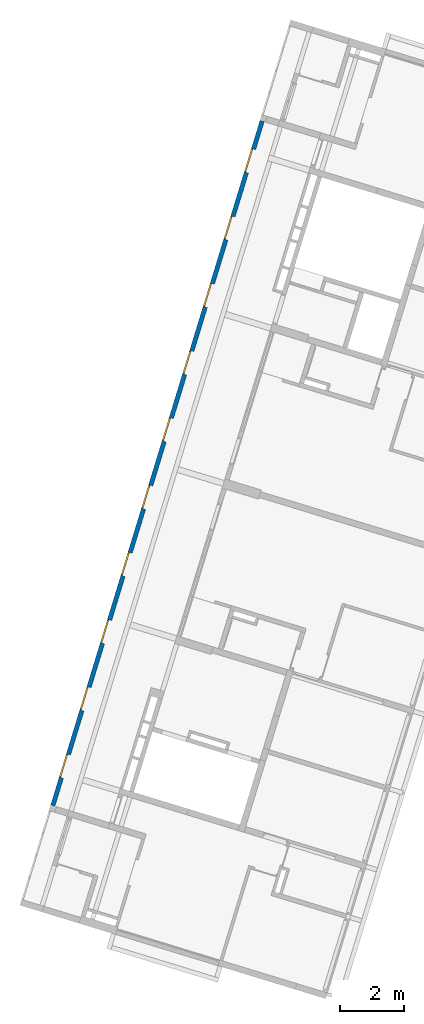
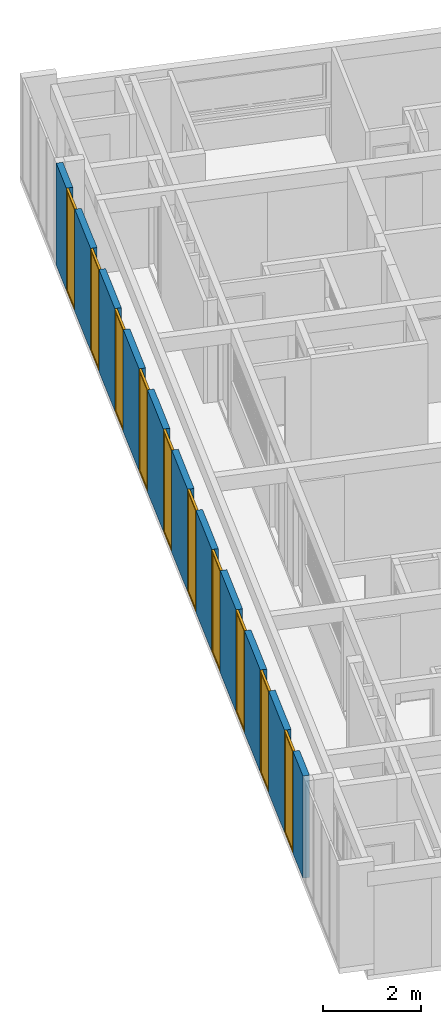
# One storey, part 9 of 18: 10 windows, 1 wall, 10 openings.
"""IFC2X3 building model written with IfcOpenShell, lengths in millimetres."""

from ifc_helpers import new_model, entity, si_unit, converted_unit, derived_unit, money_unit, direction, frame, origin_with_axes, place, context, subcontext, project, spatial, open_shell, faceted_brep, surface_model, source, transform, mapped, material, type_object, element, fill, save


model = new_model("IFC2X3")

# Units and contexts
model_context = context("Model", 3, precision=0.01, world=origin_with_axes(), true_north=direction((0.0, 1.0)))
body_context = subcontext(model_context, "Body", "Model", "MODEL_VIEW")
ifc_project = project(units=[si_unit("LENGTHUNIT", "METRE", prefix="MILLI"), si_unit("AREAUNIT", "SQUARE_METRE"), si_unit("VOLUMEUNIT", "CUBIC_METRE"), converted_unit("PLANEANGLEUNIT", "DEGREE", entity("IfcPlaneAngleMeasure", 0.0174532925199), si_unit("PLANEANGLEUNIT", "RADIAN"), dimensions=[0, 0, 0, 0, 0, 0, 0]), money_unit("USD"), converted_unit("TIMEUNIT", "Year", entity("IfcTimeMeasure", 31556926.0), si_unit("TIMEUNIT", "SECOND"), dimensions=[0, 0, 1, 0, 0, 0, 0]), si_unit("MASSUNIT", "GRAM", prefix="KILO"), si_unit("THERMODYNAMICTEMPERATUREUNIT", "DEGREE_CELSIUS"), si_unit("LUMINOUSINTENSITYUNIT", "LUMEN"), si_unit("ENERGYUNIT", "JOULE", prefix="MEGA"), derived_unit("THERMALCONDUCTANCEUNIT", [(si_unit("POWERUNIT", "WATT"), 1), (si_unit("LENGTHUNIT", "METRE"), -1), (si_unit("THERMODYNAMICTEMPERATUREUNIT", "KELVIN"), -1)]), derived_unit("SPECIFICHEATCAPACITYUNIT", [(si_unit("ENERGYUNIT", "JOULE"), 1), (si_unit("MASSUNIT", "GRAM", prefix="KILO"), -1), (si_unit("THERMODYNAMICTEMPERATUREUNIT", "KELVIN"), -1)]), derived_unit("MASSDENSITYUNIT", [(si_unit("MASSUNIT", "GRAM", prefix="KILO"), 1), (si_unit("VOLUMEUNIT", "CUBIC_METRE"), -1)])], contexts=[model_context])

# Site, building, storey
site_placement = place(None, frame((0.0, 0.0, 0.0), z_axis=(0.0, 0.0, 1.0), x_axis=(0.956304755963, -0.292371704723, 0.0)))
site = spatial("IfcSite", under=ifc_project, at=site_placement, Name="Site", CompositionType="ELEMENT")
building_placement = place(site_placement, origin_with_axes())
building = spatial("IfcBuilding", under=site, at=building_placement, Name="Building", CompositionType="ELEMENT")
storey_placement = place(building_placement, origin_with_axes())
storey = spatial("IfcBuildingStorey", under=building, at=storey_placement, Name="Pavimento tipo", CompositionType="ELEMENT", Elevation=0.0)

# Wall, openings, windows
ifc_material = material(Name="Tijolo - Estrutural")
wall_type = type_object("IfcWallType", Name="Tijolo - Estrutural 140", PredefinedType="NOTDEFINED")
wall_placement = place(storey_placement, frame((-528.28928681, 3300.01112316, 250.0), z_axis=(0.0, 0.0, 1.0), x_axis=(0.0, 1.0, 0.0)))
wall = element("IfcWall", 1, at=wall_placement, inside=storey, type_object=wall_type, material=ifc_material, Name="Parede 57", context=body_context, shape_type="Brep", body=[
    faceted_brep([(5330.01345491, -70.0, 2560.0), (5330.01345491, 70.0, 2560.0), (3890.01726363, 70.0, 2560.0), (3890.01726363, -70.0, 2560.0), (5330.01345491, 70.0, 0.0), (5330.01345491, -70.0, 0.0), (3890.01726363, 70.0, 0.0), (3890.01726363, -70.0, 0.0)], [[[0, 1, 2, 3]], [[4, 1, 0, 5]], [[1, 4, 6, 2]], [[2, 6, 7, 3]], [[5, 0, 3, 7]], [[4, 5, 7, 6]]]),
    faceted_brep([(6100.01345491, 70.0, 2560.0), (6100.01345491, -70.0, 2560.0), (7540.00964619, -70.0, 2560.0), (7540.00964619, 70.0, 2560.0), (6100.01345491, -70.0, 0.0), (6100.01345491, 70.0, 0.0), (7540.00964619, -70.0, 0.0), (7540.00964619, 70.0, 0.0)], [[[0, 1, 2, 3]], [[4, 1, 0, 5]], [[1, 4, 6, 2]], [[2, 6, 7, 3]], [[5, 0, 3, 7]], [[4, 5, 7, 6]]]),
    faceted_brep([(9750.00583746, -70.0, 2560.0), (9750.00583746, 70.0, 2560.0), (8310.00964619, 70.0, 2560.0), (8310.00964619, -70.0, 2560.0), (9750.00583746, 70.0, 0.0), (9750.00583746, -70.0, 0.0), (8310.00964619, 70.0, 0.0), (8310.00964619, -70.0, 0.0)], [[[0, 1, 2, 3]], [[4, 1, 0, 5]], [[1, 4, 6, 2]], [[2, 6, 7, 3]], [[5, 0, 3, 7]], [[4, 5, 7, 6]]]),
    faceted_brep([(10520.0058375, 70.0, 2560.0), (10520.0058375, -70.0, 2560.0), (11960.0020287, -70.0, 2560.0), (11960.0020287, 70.0, 2560.0), (10520.0058375, -70.0, 0.0), (10520.0058375, 70.0, 0.0), (11960.0020287, -70.0, 0.0), (11960.0020287, 70.0, 0.0)], [[[0, 1, 2, 3]], [[4, 1, 0, 5]], [[1, 4, 6, 2]], [[2, 6, 7, 3]], [[5, 0, 3, 7]], [[4, 5, 7, 6]]]),
    faceted_brep([(14169.99822, -70.0, 2560.0), (14169.99822, 70.0, 2560.0), (12730.0020287, 70.0, 2560.0), (12730.0020287, -70.0, 2560.0), (14169.99822, 70.0, 0.0), (14169.99822, -70.0, 0.0), (12730.0020287, 70.0, 0.0), (12730.0020287, -70.0, 0.0)], [[[0, 1, 2, 3]], [[4, 1, 0, 5]], [[1, 4, 6, 2]], [[2, 6, 7, 3]], [[5, 0, 3, 7]], [[4, 5, 7, 6]]]),
    faceted_brep([(14939.99822, 70.0, 2560.0), (14939.99822, -70.0, 2560.0), (16379.9944113, -70.0, 2560.0), (16379.9944113, 70.0, 2560.0), (14939.99822, -70.0, 0.0), (14939.99822, 70.0, 0.0), (16379.9944113, -70.0, 0.0), (16379.9944113, 70.0, 0.0)], [[[0, 1, 2, 3]], [[4, 1, 0, 5]], [[1, 4, 6, 2]], [[2, 6, 7, 3]], [[5, 0, 3, 7]], [[4, 5, 7, 6]]]),
    faceted_brep([(18589.9906026, -70.0, 2560.0), (18589.9906026, 70.0, 2560.0), (17149.9944113, 70.0, 2560.0), (17149.9944113, -70.0, 2560.0), (18589.9906026, 70.0, 0.0), (18589.9906026, -70.0, 0.0), (17149.9944113, 70.0, 0.0), (17149.9944113, -70.0, 0.0)], [[[0, 1, 2, 3]], [[4, 1, 0, 5]], [[1, 4, 6, 2]], [[2, 6, 7, 3]], [[5, 0, 3, 7]], [[4, 5, 7, 6]]]),
    faceted_brep([(19359.9906026, 70.0, 2560.0), (19359.9906026, -70.0, 2560.0), (20799.9867938, -70.0, 2560.0), (20799.9867938, 70.0, 2560.0), (19359.9906026, -70.0, 0.0), (19359.9906026, 70.0, 0.0), (20799.9867938, -70.0, 0.0), (20799.9867938, 70.0, 0.0)], [[[0, 1, 2, 3]], [[4, 1, 0, 5]], [[1, 4, 6, 2]], [[2, 6, 7, 3]], [[5, 0, 3, 7]], [[4, 5, 7, 6]]]),
    faceted_brep([(22489.986794, -70.0, 2560.0), (22489.986794, 70.0, 2560.0), (21569.9867938, 70.0, 2560.0), (21569.9867938, -70.0, 2560.0), (22489.986794, 70.0, 0.0), (22489.986794, -70.0, 0.0), (21569.9867938, 70.0, 0.0), (21569.9867938, -70.0, 0.0)], [[[0, 1, 2, 3]], [[4, 1, 0, 5]], [[1, 4, 6, 2]], [[2, 6, 7, 3]], [[5, 0, 3, 7]], [[4, 5, 7, 6]]]),
    faceted_brep([(910.021072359, -70.0, 0.0), (910.021072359, -70.0, 2560.0), (0.0, -70.0, 2560.0), (0.0, -70.0, 0.0), (910.021072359, 70.0, 2560.0), (910.021072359, 70.0, 0.0), (0.0, 70.0, 2560.0), (0.0, 70.0, 0.0)], [[[0, 1, 2, 3]], [[4, 1, 0, 5]], [[1, 4, 6, 2]], [[6, 7, 3, 2]], [[5, 0, 3, 7]], [[4, 5, 7, 6]]]),
    faceted_brep([(1680.02107236, 70.0, 2560.0), (1680.02107236, -70.0, 2560.0), (3120.01726363, -70.0, 2560.0), (3120.01726363, 70.0, 2560.0), (1680.02107236, -70.0, 0.0), (1680.02107236, 70.0, 0.0), (3120.01726363, -70.0, 0.0), (3120.01726363, 70.0, 0.0)], [[[0, 1, 2, 3]], [[4, 1, 0, 5]], [[1, 4, 6, 2]], [[2, 6, 7, 3]], [[5, 0, 3, 7]], [[4, 5, 7, 6]]]),
])
opening_1_placement = place(wall_placement, frame((21184.9867938, 0.0, 0.0), z_axis=(0.0, 0.0, 1.0), x_axis=(1.0, 0.0, 0.0)))
opening_1 = element("IfcOpeningElement", 2, at=opening_1_placement, cuts=wall, Name="J19", context=body_context, shape_type="Brep", body=[
    faceted_brep([(-385.0, -71.0, 2560.0), (-385.0, -71.0, 0.0), (385.0, -71.0, 0.0), (385.0, -71.0, 2560.0), (-385.0, 71.0, 2560.0), (-385.0, 71.0, 0.0), (385.0, 71.0, 0.0), (385.0, 71.0, 2560.0)], [[[0, 1, 2, 3]], [[4, 5, 1, 0]], [[5, 6, 2, 1]], [[6, 7, 3, 2]], [[7, 4, 0, 3]], [[6, 5, 4, 7]]]),
])
opening_2_placement = place(wall_placement, frame((18974.9906026, 0.0, 0.0), z_axis=(0.0, 0.0, 1.0), x_axis=(1.0, 0.0, 0.0)))
opening_2 = element("IfcOpeningElement", 3, at=opening_2_placement, cuts=wall, Name="J20", context=body_context, shape_type="Brep", body=[
    faceted_brep([(-385.0, -71.0, 2560.0), (-385.0, -71.0, 0.0), (385.0, -71.0, 0.0), (385.0, -71.0, 2560.0), (-385.0, 71.0, 2560.0), (-385.0, 71.0, 0.0), (385.0, 71.0, 0.0), (385.0, 71.0, 2560.0)], [[[0, 1, 2, 3]], [[4, 5, 1, 0]], [[5, 6, 2, 1]], [[6, 7, 3, 2]], [[7, 4, 0, 3]], [[6, 5, 4, 7]]]),
])
opening_3_placement = place(wall_placement, frame((16764.9944113, 0.0, 0.0), z_axis=(0.0, 0.0, 1.0), x_axis=(1.0, 0.0, 0.0)))
opening_3 = element("IfcOpeningElement", 4, at=opening_3_placement, cuts=wall, Name="J21", context=body_context, shape_type="Brep", body=[
    faceted_brep([(-385.0, -71.0, 2560.0), (-385.0, -71.0, 0.0), (385.0, -71.0, 0.0), (385.0, -71.0, 2560.0), (-385.0, 71.0, 2560.0), (-385.0, 71.0, 0.0), (385.0, 71.0, 0.0), (385.0, 71.0, 2560.0)], [[[0, 1, 2, 3]], [[4, 5, 1, 0]], [[5, 6, 2, 1]], [[6, 7, 3, 2]], [[7, 4, 0, 3]], [[6, 5, 4, 7]]]),
])
opening_4_placement = place(wall_placement, frame((14554.99822, 0.0, 0.0), z_axis=(0.0, 0.0, 1.0), x_axis=(1.0, 0.0, 0.0)))
opening_4 = element("IfcOpeningElement", 5, at=opening_4_placement, cuts=wall, Name="J22", context=body_context, shape_type="Brep", body=[
    faceted_brep([(-385.0, -71.0, 2560.0), (-385.0, -71.0, 0.0), (385.0, -71.0, 0.0), (385.0, -71.0, 2560.0), (-385.0, 71.0, 2560.0), (-385.0, 71.0, 0.0), (385.0, 71.0, 0.0), (385.0, 71.0, 2560.0)], [[[0, 1, 2, 3]], [[4, 5, 1, 0]], [[5, 6, 2, 1]], [[6, 7, 3, 2]], [[7, 4, 0, 3]], [[6, 5, 4, 7]]]),
])
opening_5_placement = place(wall_placement, frame((12345.0020287, 0.0, 0.0), z_axis=(0.0, 0.0, 1.0), x_axis=(1.0, 0.0, 0.0)))
opening_5 = element("IfcOpeningElement", 6, at=opening_5_placement, cuts=wall, Name="J23", context=body_context, shape_type="Brep", body=[
    faceted_brep([(-385.0, -71.0, 2560.0), (-385.0, -71.0, 0.0), (385.0, -71.0, 0.0), (385.0, -71.0, 2560.0), (-385.0, 71.0, 2560.0), (-385.0, 71.0, 0.0), (385.0, 71.0, 0.0), (385.0, 71.0, 2560.0)], [[[0, 1, 2, 3]], [[4, 5, 1, 0]], [[5, 6, 2, 1]], [[6, 7, 3, 2]], [[7, 4, 0, 3]], [[6, 5, 4, 7]]]),
])
opening_6_placement = place(wall_placement, frame((10135.0058375, 0.0, 0.0), z_axis=(0.0, 0.0, 1.0), x_axis=(1.0, 0.0, 0.0)))
opening_6 = element("IfcOpeningElement", 7, at=opening_6_placement, cuts=wall, Name="J24", context=body_context, shape_type="Brep", body=[
    faceted_brep([(-385.0, -71.0, 2560.0), (-385.0, -71.0, 0.0), (385.0, -71.0, 0.0), (385.0, -71.0, 2560.0), (-385.0, 71.0, 2560.0), (-385.0, 71.0, 0.0), (385.0, 71.0, 0.0), (385.0, 71.0, 2560.0)], [[[0, 1, 2, 3]], [[4, 5, 1, 0]], [[5, 6, 2, 1]], [[6, 7, 3, 2]], [[7, 4, 0, 3]], [[6, 5, 4, 7]]]),
])
opening_7_placement = place(wall_placement, frame((7925.00964619, 0.0, 0.0), z_axis=(0.0, 0.0, 1.0), x_axis=(1.0, 0.0, 0.0)))
opening_7 = element("IfcOpeningElement", 8, at=opening_7_placement, cuts=wall, Name="J25", context=body_context, shape_type="Brep", body=[
    faceted_brep([(-385.0, -71.0, 2560.0), (-385.0, -71.0, 0.0), (385.0, -71.0, 0.0), (385.0, -71.0, 2560.0), (-385.0, 71.0, 2560.0), (-385.0, 71.0, 0.0), (385.0, 71.0, 0.0), (385.0, 71.0, 2560.0)], [[[0, 1, 2, 3]], [[4, 5, 1, 0]], [[5, 6, 2, 1]], [[6, 7, 3, 2]], [[7, 4, 0, 3]], [[6, 5, 4, 7]]]),
])
opening_8_placement = place(wall_placement, frame((5715.01345491, 0.0, 0.0), z_axis=(0.0, 0.0, 1.0), x_axis=(1.0, 0.0, 0.0)))
opening_8 = element("IfcOpeningElement", 9, at=opening_8_placement, cuts=wall, Name="J26", context=body_context, shape_type="Brep", body=[
    faceted_brep([(-385.0, -71.0, 2560.0), (-385.0, -71.0, 0.0), (385.0, -71.0, 0.0), (385.0, -71.0, 2560.0), (-385.0, 71.0, 2560.0), (-385.0, 71.0, 0.0), (385.0, 71.0, 0.0), (385.0, 71.0, 2560.0)], [[[0, 1, 2, 3]], [[4, 5, 1, 0]], [[5, 6, 2, 1]], [[6, 7, 3, 2]], [[7, 4, 0, 3]], [[6, 5, 4, 7]]]),
])
opening_9_placement = place(wall_placement, frame((3505.01726363, 0.0, 0.0), z_axis=(0.0, 0.0, 1.0), x_axis=(1.0, 0.0, 0.0)))
opening_9 = element("IfcOpeningElement", 10, at=opening_9_placement, cuts=wall, Name="J27", context=body_context, shape_type="Brep", body=[
    faceted_brep([(-385.0, -71.0, 2560.0), (-385.0, -71.0, 0.0), (385.0, -71.0, 0.0), (385.0, -71.0, 2560.0), (-385.0, 71.0, 2560.0), (-385.0, 71.0, 0.0), (385.0, 71.0, 0.0), (385.0, 71.0, 2560.0)], [[[0, 1, 2, 3]], [[4, 5, 1, 0]], [[5, 6, 2, 1]], [[6, 7, 3, 2]], [[7, 4, 0, 3]], [[6, 5, 4, 7]]]),
])
opening_10_placement = place(wall_placement, frame((1295.02107236, 0.0, 0.0), z_axis=(0.0, 0.0, 1.0), x_axis=(1.0, 0.0, 0.0)))
opening_10 = element("IfcOpeningElement", 11, at=opening_10_placement, cuts=wall, Name="J28", context=body_context, shape_type="Brep", body=[
    faceted_brep([(-385.0, -71.0, 2560.0), (-385.0, -71.0, 0.0), (385.0, -71.0, 0.0), (385.0, -71.0, 2560.0), (-385.0, 71.0, 2560.0), (-385.0, 71.0, 0.0), (385.0, 71.0, 0.0), (385.0, 71.0, 2560.0)], [[[0, 1, 2, 3]], [[4, 5, 1, 0]], [[5, 6, 2, 1]], [[6, 7, 3, 2]], [[7, 4, 0, 3]], [[6, 5, 4, 7]]]),
])
window_style = type_object("IfcWindowStyle", Name="Janela 26", ConstructionType="NOTDEFINED", OperationType="SINGLE_PANEL", ParameterTakesPrecedence=False, Sizeable=False)
shared_shape = source(origin_with_axes(), body_context, "Body", "SurfaceModel", [
    faceted_brep([(-350.0, -50.0, 2525.0), (-350.0, 0.0, 2525.0), (-385.0, 0.0, 2525.0), (-385.0, -50.0, 2525.0), (-350.0, -50.0, 35.0), (-350.0, 0.0, 35.0), (-385.0, 0.0, 35.0), (-385.0, -50.0, 35.0)], [[[0, 1, 2, 3]], [[4, 5, 1, 0]], [[1, 5, 6, 2]], [[3, 2, 6, 7]], [[0, 3, 7, 4]], [[7, 6, 5, 4]]]),
    faceted_brep([(350.0, -50.0, 35.0), (350.0, 0.0, 35.0), (385.0, 0.0, 35.0), (385.0, -50.0, 35.0), (350.0, -50.0, 2525.0), (350.0, 0.0, 2525.0), (385.0, 0.0, 2525.0), (385.0, -50.0, 2525.0)], [[[0, 1, 2, 3]], [[4, 5, 1, 0]], [[1, 5, 6, 2]], [[3, 2, 6, 7]], [[0, 3, 7, 4]], [[7, 6, 5, 4]]]),
    faceted_brep([(-350.0, -50.0, 35.0), (-350.0, 0.0, 35.0), (-385.0, 0.0, 35.0), (-385.0, -50.0, 35.0), (350.0, -50.0, 35.0), (350.0, 0.0, 35.0), (385.0, 0.0, 35.0), (385.0, 0.0, 0.0), (-385.0, 0.0, 0.0), (-385.0, -50.0, 0.0), (385.0, -50.0, 0.0), (385.0, -50.0, 35.0)], [[[0, 1, 2, 3]], [[4, 5, 1, 0]], [[1, 5, 6, 7, 8, 2]], [[3, 2, 8, 9]], [[0, 3, 9, 10, 11, 4]], [[11, 6, 5, 4]], [[10, 7, 6, 11]], [[9, 8, 7, 10]]]),
    faceted_brep([(350.0, -50.0, 2525.0), (350.0, 0.0, 2525.0), (385.0, 0.0, 2525.0), (385.0, -50.0, 2525.0), (-350.0, -50.0, 2525.0), (-350.0, 0.0, 2525.0), (-385.0, 0.0, 2525.0), (-385.0, 0.0, 2560.0), (385.0, 0.0, 2560.0), (385.0, -50.0, 2560.0), (-385.0, -50.0, 2560.0), (-385.0, -50.0, 2525.0)], [[[0, 1, 2, 3]], [[4, 5, 1, 0]], [[1, 5, 6, 7, 8, 2]], [[3, 2, 8, 9]], [[0, 3, 9, 10, 11, 4]], [[11, 6, 5, 4]], [[10, 7, 6, 11]], [[9, 8, 7, 10]]]),
    surface_model("IfcShellBasedSurfaceModel", [(350.0, -35.0, 35.0), (350.0, -35.0, 2525.0), (-350.0, -35.0, 2525.0), (-350.0, -35.0, 35.0)], [open_shell([[[0, 1, 2, 3]]])]),
    surface_model("IfcShellBasedSurfaceModel", [(350.0, -15.0, 35.0), (-350.0, -15.0, 35.0), (-350.0, -15.0, 2525.0), (350.0, -15.0, 2525.0)], [open_shell([[[0, 1, 2, 3]]])]),
])
window_1_placement = place(opening_1_placement, frame((385.0, 0.0, 0.0), z_axis=(0.0, 0.0, 1.0), x_axis=(-1.0, 0.0, 0.0)))
window_1 = element("IfcWindow", 12, at=window_1_placement, inside=storey, type_object=window_style, Name="J19", OverallHeight=2560.0, OverallWidth=770.0, context=body_context, shape_type="MappedRepresentation", body=[
    mapped(shared_shape, transform((385.0, -20.0, 0.0))),
])
fill(opening_1, window_1)
window_2_placement = place(opening_2_placement, frame((385.0, 0.0, 0.0), z_axis=(0.0, 0.0, 1.0), x_axis=(-1.0, 0.0, 0.0)))
window_2 = element("IfcWindow", 13, at=window_2_placement, inside=storey, type_object=window_style, Name="J20", OverallHeight=2560.0, OverallWidth=770.0, context=body_context, shape_type="MappedRepresentation", body=[
    mapped(shared_shape, transform((385.0, -20.0, 0.0))),
])
fill(opening_2, window_2)
window_3_placement = place(opening_3_placement, frame((385.0, 0.0, 0.0), z_axis=(0.0, 0.0, 1.0), x_axis=(-1.0, 0.0, 0.0)))
window_3 = element("IfcWindow", 14, at=window_3_placement, inside=storey, type_object=window_style, Name="J21", OverallHeight=2560.0, OverallWidth=770.0, context=body_context, shape_type="MappedRepresentation", body=[
    mapped(shared_shape, transform((385.0, -20.0, 0.0))),
])
fill(opening_3, window_3)
window_4_placement = place(opening_4_placement, frame((385.0, 0.0, 0.0), z_axis=(0.0, 0.0, 1.0), x_axis=(-1.0, 0.0, 0.0)))
window_4 = element("IfcWindow", 15, at=window_4_placement, inside=storey, type_object=window_style, Name="J22", OverallHeight=2560.0, OverallWidth=770.0, context=body_context, shape_type="MappedRepresentation", body=[
    mapped(shared_shape, transform((385.0, -20.0, 0.0))),
])
fill(opening_4, window_4)
window_5_placement = place(opening_5_placement, frame((385.0, 0.0, 0.0), z_axis=(0.0, 0.0, 1.0), x_axis=(-1.0, 0.0, 0.0)))
window_5 = element("IfcWindow", 16, at=window_5_placement, inside=storey, type_object=window_style, Name="J23", OverallHeight=2560.0, OverallWidth=770.0, context=body_context, shape_type="MappedRepresentation", body=[
    mapped(shared_shape, transform((385.0, -20.0, 0.0))),
])
fill(opening_5, window_5)
window_6_placement = place(opening_6_placement, frame((385.0, 0.0, 0.0), z_axis=(0.0, 0.0, 1.0), x_axis=(-1.0, 0.0, 0.0)))
window_6 = element("IfcWindow", 17, at=window_6_placement, inside=storey, type_object=window_style, Name="J24", OverallHeight=2560.0, OverallWidth=770.0, context=body_context, shape_type="MappedRepresentation", body=[
    mapped(shared_shape, transform((385.0, -20.0, 0.0))),
])
fill(opening_6, window_6)
window_7_placement = place(opening_7_placement, frame((385.0, 0.0, 0.0), z_axis=(0.0, 0.0, 1.0), x_axis=(-1.0, 0.0, 0.0)))
window_7 = element("IfcWindow", 18, at=window_7_placement, inside=storey, type_object=window_style, Name="J25", OverallHeight=2560.0, OverallWidth=770.0, context=body_context, shape_type="MappedRepresentation", body=[
    mapped(shared_shape, transform((385.0, -20.0, 0.0))),
])
fill(opening_7, window_7)
window_8_placement = place(opening_8_placement, frame((385.0, 0.0, 0.0), z_axis=(0.0, 0.0, 1.0), x_axis=(-1.0, 0.0, 0.0)))
window_8 = element("IfcWindow", 19, at=window_8_placement, inside=storey, type_object=window_style, Name="J26", OverallHeight=2560.0, OverallWidth=770.0, context=body_context, shape_type="MappedRepresentation", body=[
    mapped(shared_shape, transform((385.0, -20.0, 0.0))),
])
fill(opening_8, window_8)
window_9_placement = place(opening_9_placement, frame((385.0, 0.0, 0.0), z_axis=(0.0, 0.0, 1.0), x_axis=(-1.0, 0.0, 0.0)))
window_9 = element("IfcWindow", 20, at=window_9_placement, inside=storey, type_object=window_style, Name="J27", OverallHeight=2560.0, OverallWidth=770.0, context=body_context, shape_type="MappedRepresentation", body=[
    mapped(shared_shape, transform((385.0, -20.0, 0.0))),
])
fill(opening_9, window_9)
window_10_placement = place(opening_10_placement, frame((385.0, 0.0, 0.0), z_axis=(0.0, 0.0, 1.0), x_axis=(-1.0, 0.0, 0.0)))
window_10 = element("IfcWindow", 21, at=window_10_placement, inside=storey, type_object=window_style, Name="J28", OverallHeight=2560.0, OverallWidth=770.0, context=body_context, shape_type="MappedRepresentation", body=[
    mapped(shared_shape, transform((385.0, -20.0, 0.0))),
])
fill(opening_10, window_10)

save(model, "model.ifc")
